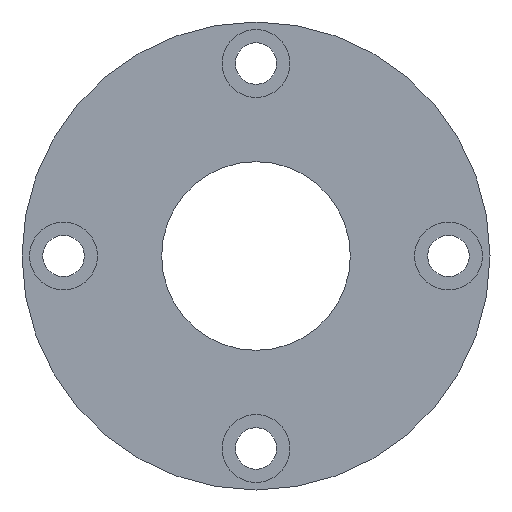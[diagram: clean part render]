
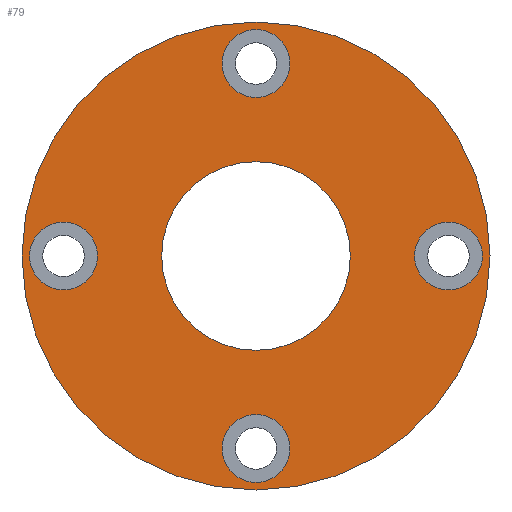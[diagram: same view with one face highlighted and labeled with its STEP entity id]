
A CAD part, left-side view. The second image highlights one B-rep face of the part: STEP entity #79.
In plain terms, the highlighted planar face has unit normal (-1, 0, 0).
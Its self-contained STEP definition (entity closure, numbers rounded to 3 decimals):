
#79 = ADVANCED_FACE( '', ( #110, #111, #112, #113, #114, #115 ), #116, .T. );
#110 = FACE_BOUND( '', #172, .T. );
#111 = FACE_BOUND( '', #173, .T. );
#112 = FACE_BOUND( '', #174, .T. );
#113 = FACE_BOUND( '', #175, .T. );
#114 = FACE_BOUND( '', #176, .T. );
#115 = FACE_OUTER_BOUND( '', #177, .T. );
#116 = PLANE( '', #178 );
#172 = EDGE_LOOP( '', ( #242 ) );
#173 = EDGE_LOOP( '', ( #243 ) );
#174 = EDGE_LOOP( '', ( #244 ) );
#175 = EDGE_LOOP( '', ( #245 ) );
#176 = EDGE_LOOP( '', ( #246 ) );
#177 = EDGE_LOOP( '', ( #247 ) );
#178 = AXIS2_PLACEMENT_3D( '', #248, #249, #250 );
#242 = ORIENTED_EDGE( '', *, *, #324, .T. );
#243 = ORIENTED_EDGE( '', *, *, #325, .T. );
#244 = ORIENTED_EDGE( '', *, *, #326, .T. );
#245 = ORIENTED_EDGE( '', *, *, #327, .T. );
#246 = ORIENTED_EDGE( '', *, *, #328, .T. );
#247 = ORIENTED_EDGE( '', *, *, #329, .F. );
#248 = CARTESIAN_POINT( '', ( 0., 31., 0. ) );
#249 = DIRECTION( '', ( -1., 0., 0. ) );
#250 = DIRECTION( '', ( 0., 0., 1. ) );
#324 = EDGE_CURVE( '', #354, #354, #355, .T. );
#325 = EDGE_CURVE( '', #356, #356, #357, .F. );
#326 = EDGE_CURVE( '', #358, #358, #359, .T. );
#327 = EDGE_CURVE( '', #360, #360, #361, .T. );
#328 = EDGE_CURVE( '', #362, #362, #363, .T. );
#329 = EDGE_CURVE( '', #364, #364, #365, .T. );
#354 = VERTEX_POINT( '', #398 );
#355 = CIRCLE( '', #399, 12.5 );
#356 = VERTEX_POINT( '', #400 );
#357 = CIRCLE( '', #401, 4.5 );
#358 = VERTEX_POINT( '', #402 );
#359 = CIRCLE( '', #403, 4.5 );
#360 = VERTEX_POINT( '', #404 );
#361 = CIRCLE( '', #405, 4.5 );
#362 = VERTEX_POINT( '', #406 );
#363 = CIRCLE( '', #407, 4.5 );
#364 = VERTEX_POINT( '', #408 );
#365 = CIRCLE( '', #409, 31. );
#398 = CARTESIAN_POINT( '', ( 0., 0., -12.5 ) );
#399 = AXIS2_PLACEMENT_3D( '', #450, #451, #452 );
#400 = CARTESIAN_POINT( '', ( 0., 25.5, 4.5 ) );
#401 = AXIS2_PLACEMENT_3D( '', #453, #454, #455 );
#402 = CARTESIAN_POINT( '', ( 0., 0., 21. ) );
#403 = AXIS2_PLACEMENT_3D( '', #456, #457, #458 );
#404 = CARTESIAN_POINT( '', ( 0., 0., -30. ) );
#405 = AXIS2_PLACEMENT_3D( '', #459, #460, #461 );
#406 = CARTESIAN_POINT( '', ( 0., -25.5, -4.5 ) );
#407 = AXIS2_PLACEMENT_3D( '', #462, #463, #464 );
#408 = CARTESIAN_POINT( '', ( 0., 0., -31. ) );
#409 = AXIS2_PLACEMENT_3D( '', #465, #466, #467 );
#450 = CARTESIAN_POINT( '', ( 0., 0., 0. ) );
#451 = DIRECTION( '', ( 1., 0., 0. ) );
#452 = DIRECTION( '', ( 0., 0., -1. ) );
#453 = CARTESIAN_POINT( '', ( 0., 25.5, 0. ) );
#454 = DIRECTION( '', ( -1., 0., 0. ) );
#455 = DIRECTION( '', ( 0., 0., 1. ) );
#456 = CARTESIAN_POINT( '', ( 0., 0., 25.5 ) );
#457 = DIRECTION( '', ( 1., 0., 0. ) );
#458 = DIRECTION( '', ( 0., 0., -1. ) );
#459 = CARTESIAN_POINT( '', ( 0., 0., -25.5 ) );
#460 = DIRECTION( '', ( 1., 0., 0. ) );
#461 = DIRECTION( '', ( 0., 0., -1. ) );
#462 = CARTESIAN_POINT( '', ( 0., -25.5, 0. ) );
#463 = DIRECTION( '', ( 1., 0., 0. ) );
#464 = DIRECTION( '', ( 0., 0., -1. ) );
#465 = CARTESIAN_POINT( '', ( 0., 0., 0. ) );
#466 = DIRECTION( '', ( 1., 0., 0. ) );
#467 = DIRECTION( '', ( 0., 0., -1. ) );
